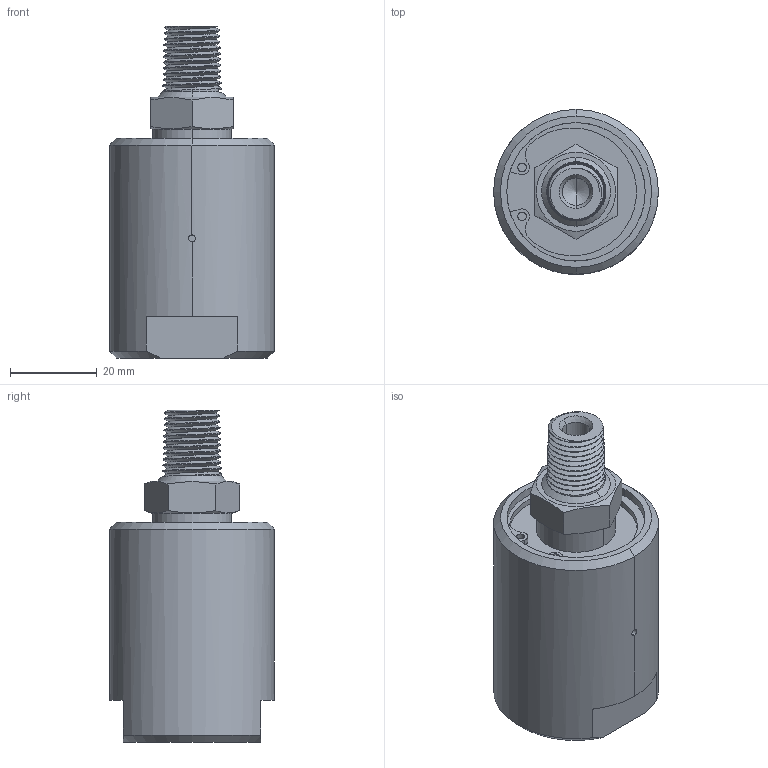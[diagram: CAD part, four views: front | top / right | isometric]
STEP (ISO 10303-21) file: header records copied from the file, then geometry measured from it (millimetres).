
FILE_DESCRIPTION (( 'STEP AP214' ), '1' );
FILE_NAME ('SPS(M)-5210.STEP', '2013-02-08T15:47:56', ( '' ), ( '' ), 'SwSTEP 2.0', 'SolidWorks 2011', '' );
FILE_SCHEMA (( 'AUTOMOTIVE_DESIGN' ));
Length unit declared in the file: inch
Products named in the file (1): SPS(M)-5210
Bounding box: 38.1 x 38.1 x 76.76 mm (x, y, z)
Volume: 56331.9 mm3; surface area: 12118.2 mm2
Topology: 1 solids, 1 shells, 102 faces, 265 edges, 167 vertices
Faces by surface type: cone 48, cylinder 27, plane 23, bspline 4
Entity records: 10793 total; most frequent: CARTESIAN_POINT 7502, ORIENTED_EDGE 514, DIRECTION 453, EDGE_CURVE 257, AXIS2_PLACEMENT_3D 179, VERTEX_POINT 167, EDGE_LOOP 112, ADVANCED_FACE 102
